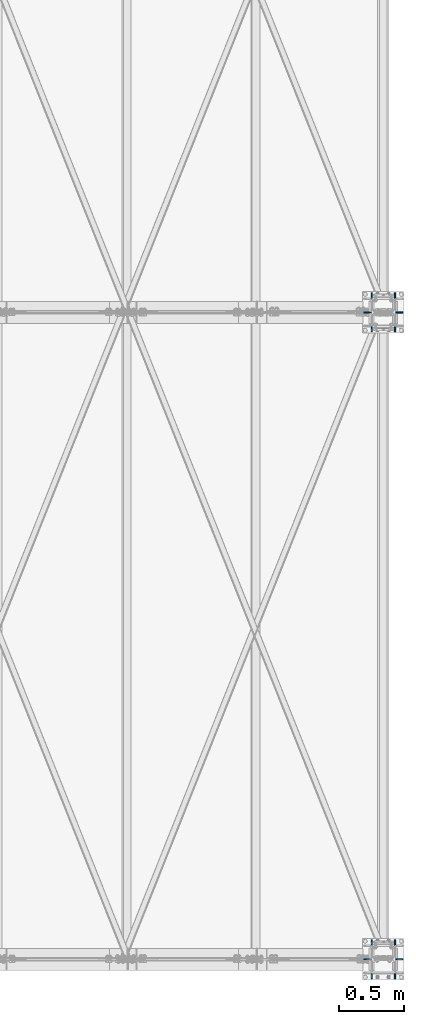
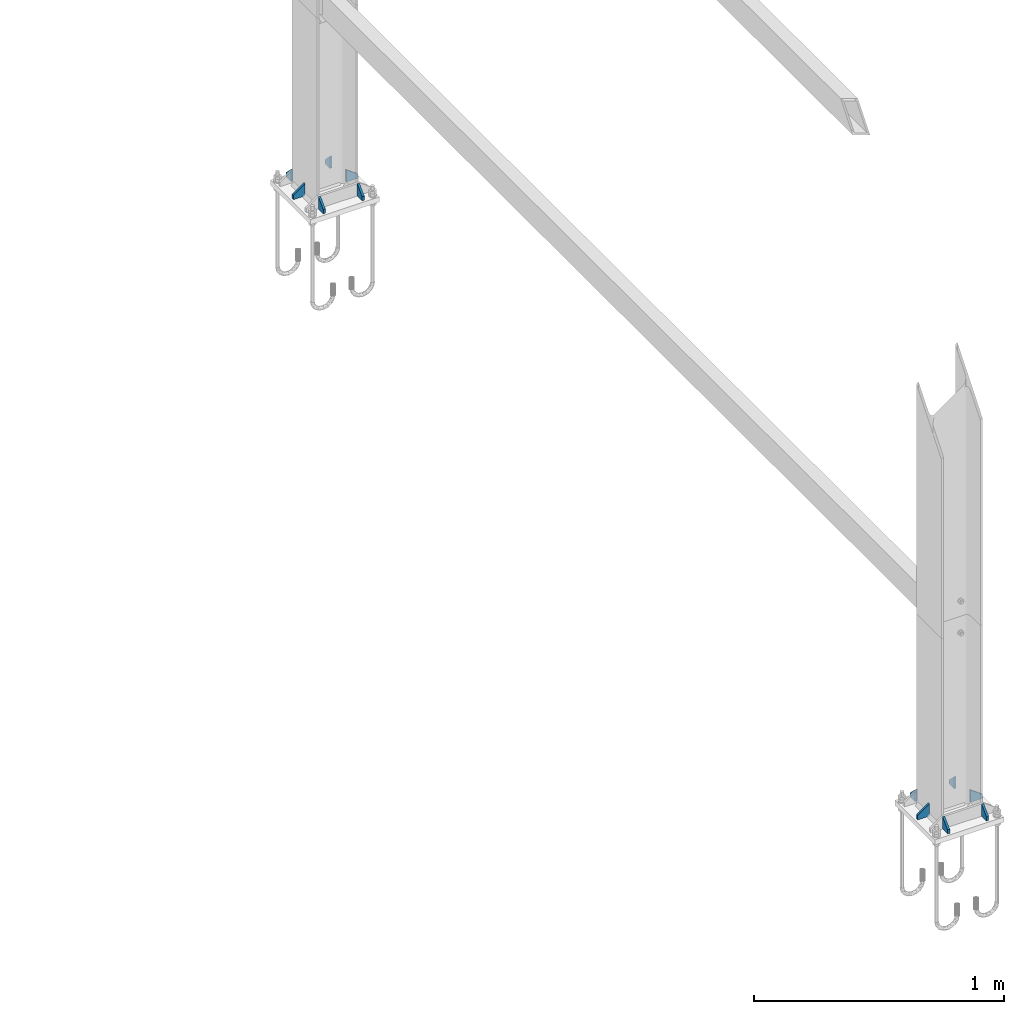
# One storey, part 12 of 251: 12 plates.
"""IFC4 building model written with IfcOpenShell, lengths in metres."""

from ifc_helpers import new_model, si_unit, frame, origin_with_axes, place, context, project, spatial, polyline, outline, extrude, type_object, element, save


model = new_model("IFC4")

# Units and contexts
model_context = context("Model", 3, precision=1e-05, world=origin_with_axes())
ifc_project = project(units=[si_unit("LENGTHUNIT", "METRE"), si_unit("AREAUNIT", "SQUARE_METRE"), si_unit("VOLUMEUNIT", "CUBIC_METRE"), si_unit("MASSUNIT", "GRAM", prefix="KILO"), si_unit("TIMEUNIT", "SECOND"), si_unit("PLANEANGLEUNIT", "RADIAN"), si_unit("SOLIDANGLEUNIT", "STERADIAN"), si_unit("THERMODYNAMICTEMPERATUREUNIT", "DEGREE_CELSIUS")], contexts=[model_context])

# Site, building, storey
placement_1 = place(None, origin_with_axes())
site = spatial("IfcSite", under=ifc_project, at=placement_1, Name="Italia", CompositionType="ELEMENT")
building = spatial("IfcBuilding", under=site, at=placement_1, Name="Deposito", CompositionType="ELEMENT")
storey = spatial("IfcBuildingStorey", under=building, at=placement_1, Name="Storey 0", CompositionType="ELEMENT", Elevation=0.0)

# Plates
plate_type_1 = type_object("IfcPlateType", Name="Collegamenti 0014_-001 0016_-054 0018_-056 0032_-002 0033_-058 0047_-003 0048_-060 0062_-004 0063_-005 0079_-008", PredefinedType="SHEET")
placement_2 = place(placement_1, origin_with_axes())
plate_1_placement = place(placement_2, origin_with_axes())
element("IfcPlate", 1, at=plate_1_placement, inside=storey, type_object=plate_type_1, Name="Collegamenti 0014_-001 0016_-054 0018_-056 0032_-002 0033_-058 0047_-003 0048_-060 0062_-004 0063_-005 0079_-008", context=model_context, shape_type="SweptSolid", body=[
    extrude(outline(polyline([(0.0, 0.0), (0.0, -0.02), (-0.0550003, -0.02), (-0.0550003, 0.04), (0.0, 0.0)])), frame((19.85, -0.005, 0.095), z_axis=(0.0, 1.0, 0.0), x_axis=(-1.0, 0.0, 0.0)), (0.0, 0.0, 1.0), 0.01),
])
plate_type_2 = type_object("IfcPlateType", Name="Collegamenti 0014_-001 0016_-054 0018_-056 0032_-002 0033_-058 0047_-003 0048_-060 0062_-004 0063_-005 0079_-008", PredefinedType="SHEET")
plate_2_placement = place(placement_2, origin_with_axes())
element("IfcPlate", 2, at=plate_2_placement, inside=storey, type_object=plate_type_2, Name="Collegamenti 0014_-001 0016_-054 0018_-056 0032_-002 0033_-058 0047_-003 0048_-060 0062_-004 0063_-005 0079_-008", context=model_context, shape_type="SweptSolid", body=[
    extrude(outline(polyline([(0.0, 0.0), (0.0, 0.02), (0.0550003, 0.06), (0.0550003, 0.0), (0.0, 0.0)])), frame((20.15, -0.005, 0.075), z_axis=(0.0, 1.0, 0.0), x_axis=(-1.0, 0.0, 0.0)), (0.0, 0.0, 1.0), 0.01),
])
plate_type_3 = type_object("IfcPlateType", Name="Collegamenti 0014_-001 0016_-054 0018_-056 0032_-002 0033_-058 0047_-003 0048_-060 0062_-004 0063_-005 0079_-008", PredefinedType="SHEET")
plate_3_placement = place(placement_2, origin_with_axes())
element("IfcPlate", 3, at=plate_3_placement, inside=storey, type_object=plate_type_3, Name="Collegamenti 0014_-001 0016_-054 0018_-056 0032_-002 0033_-058 0047_-003 0048_-060 0062_-004 0063_-005 0079_-008", context=model_context, shape_type="SweptSolid", body=[
    extrude(outline(polyline([(0.0, 0.0), (0.0, -0.02), (-0.04, -0.02), (-0.04, 0.04), (0.0, 0.0)])), frame((19.905, 0.15, 0.095), z_axis=(1.0, 0.0, 0.0), x_axis=(0.0, 1.0, 0.0)), (0.0, 0.0, 1.0), 0.0100002),
])
plate_type_4 = type_object("IfcPlateType", Name="Collegamenti 0014_-001 0016_-054 0018_-056 0032_-002 0033_-058 0047_-003 0048_-060 0062_-004 0063_-005 0079_-008", PredefinedType="SHEET")
plate_4_placement = place(placement_2, origin_with_axes())
element("IfcPlate", 4, at=plate_4_placement, inside=storey, type_object=plate_type_4, Name="Collegamenti 0014_-001 0016_-054 0018_-056 0032_-002 0033_-058 0047_-003 0048_-060 0062_-004 0063_-005 0079_-008", context=model_context, shape_type="SweptSolid", body=[
    extrude(outline(polyline([(0.0, 0.0), (0.0, 0.02), (0.04, 0.06), (0.04, 0.0), (0.0, 0.0)])), frame((19.905, -0.15, 0.075), z_axis=(1.0, 0.0, 0.0), x_axis=(0.0, 1.0, 0.0)), (0.0, 0.0, 1.0), 0.0100002),
])
plate_type_5 = type_object("IfcPlateType", Name="Collegamenti 0014_-001 0016_-054 0018_-056 0032_-002 0033_-058 0047_-003 0048_-060 0062_-004 0063_-005 0079_-008", PredefinedType="SHEET")
plate_5_placement = place(placement_2, origin_with_axes())
element("IfcPlate", 5, at=plate_5_placement, inside=storey, type_object=plate_type_5, Name="Collegamenti 0014_-001 0016_-054 0018_-056 0032_-002 0033_-058 0047_-003 0048_-060 0062_-004 0063_-005 0079_-008", context=model_context, shape_type="SweptSolid", body=[
    extrude(outline(polyline([(0.0, 0.0), (0.0, 0.02), (0.04, 0.06), (0.04, 0.0), (0.0, 0.0)])), frame((20.095, 0.15, 0.075), z_axis=(-1.0, 0.0, 0.0), x_axis=(0.0, -1.0, 0.0)), (0.0, 0.0, 1.0), 0.0100002),
])
plate_type_6 = type_object("IfcPlateType", Name="Collegamenti 0014_-001 0016_-054 0018_-056 0032_-002 0033_-058 0047_-003 0048_-060 0062_-004 0063_-005 0079_-008", PredefinedType="SHEET")
plate_6_placement = place(placement_2, origin_with_axes())
element("IfcPlate", 6, at=plate_6_placement, inside=storey, type_object=plate_type_6, Name="Collegamenti 0014_-001 0016_-054 0018_-056 0032_-002 0033_-058 0047_-003 0048_-060 0062_-004 0063_-005 0079_-008", context=model_context, shape_type="SweptSolid", body=[
    extrude(outline(polyline([(0.0, 0.0), (0.0, -0.02), (-0.04, -0.02), (-0.04, 0.04), (0.0, 0.0)])), frame((20.095, -0.15, 0.095), z_axis=(-1.0, 0.0, 0.0), x_axis=(0.0, -1.0, 0.0)), (0.0, 0.0, 1.0), 0.0100002),
])
plate_type_7 = type_object("IfcPlateType", Name="Collegamenti 0014_-001 0016_-054 0018_-056 0032_-002 0033_-058 0047_-003 0048_-060 0062_-004 0063_-005 0079_-008", PredefinedType="SHEET")
plate_7_placement = place(placement_2, origin_with_axes())
element("IfcPlate", 7, at=plate_7_placement, inside=storey, type_object=plate_type_7, Name="Collegamenti 0014_-001 0016_-054 0018_-056 0032_-002 0033_-058 0047_-003 0048_-060 0062_-004 0063_-005 0079_-008", context=model_context, shape_type="SweptSolid", body=[
    extrude(outline(polyline([(0.0, 0.0), (0.0, -0.02), (-0.0550003, -0.02), (-0.0550003, 0.04), (0.0, 0.0)])), frame((19.85, 4.995, 0.095), z_axis=(0.0, 1.0, 0.0), x_axis=(-1.0, 0.0, 0.0)), (0.0, 0.0, 1.0), 0.0100002),
])
plate_type_8 = type_object("IfcPlateType", Name="Collegamenti 0014_-001 0016_-054 0018_-056 0032_-002 0033_-058 0047_-003 0048_-060 0062_-004 0063_-005 0079_-008", PredefinedType="SHEET")
plate_8_placement = place(placement_2, origin_with_axes())
element("IfcPlate", 8, at=plate_8_placement, inside=storey, type_object=plate_type_8, Name="Collegamenti 0014_-001 0016_-054 0018_-056 0032_-002 0033_-058 0047_-003 0048_-060 0062_-004 0063_-005 0079_-008", context=model_context, shape_type="SweptSolid", body=[
    extrude(outline(polyline([(0.0, 0.0), (0.0, 0.02), (0.0550003, 0.06), (0.0550003, 0.0), (0.0, 0.0)])), frame((20.15, 4.995, 0.075), z_axis=(0.0, 1.0, 0.0), x_axis=(-1.0, 0.0, 0.0)), (0.0, 0.0, 1.0), 0.0100002),
])
plate_type_9 = type_object("IfcPlateType", Name="Collegamenti 0014_-001 0016_-054 0018_-056 0032_-002 0033_-058 0047_-003 0048_-060 0062_-004 0063_-005 0079_-008", PredefinedType="SHEET")
plate_9_placement = place(placement_2, origin_with_axes())
element("IfcPlate", 9, at=plate_9_placement, inside=storey, type_object=plate_type_9, Name="Collegamenti 0014_-001 0016_-054 0018_-056 0032_-002 0033_-058 0047_-003 0048_-060 0062_-004 0063_-005 0079_-008", context=model_context, shape_type="SweptSolid", body=[
    extrude(outline(polyline([(0.0, 0.0), (0.0, -0.02), (-0.04, -0.02), (-0.04, 0.04), (0.0, 0.0)])), frame((19.905, 5.15, 0.095), z_axis=(1.0, 0.0, 0.0), x_axis=(0.0, 1.0, 0.0)), (0.0, 0.0, 1.0), 0.0100002),
])
plate_type_10 = type_object("IfcPlateType", Name="Collegamenti 0014_-001 0016_-054 0018_-056 0032_-002 0033_-058 0047_-003 0048_-060 0062_-004 0063_-005 0079_-008", PredefinedType="SHEET")
plate_10_placement = place(placement_2, origin_with_axes())
element("IfcPlate", 10, at=plate_10_placement, inside=storey, type_object=plate_type_10, Name="Collegamenti 0014_-001 0016_-054 0018_-056 0032_-002 0033_-058 0047_-003 0048_-060 0062_-004 0063_-005 0079_-008", context=model_context, shape_type="SweptSolid", body=[
    extrude(outline(polyline([(0.0, 0.0), (0.0, 0.02), (0.04, 0.06), (0.04, 0.0), (0.0, 0.0)])), frame((19.905, 4.85, 0.075), z_axis=(1.0, 0.0, 0.0), x_axis=(0.0, 1.0, 0.0)), (0.0, 0.0, 1.0), 0.0100002),
])
plate_type_11 = type_object("IfcPlateType", Name="Collegamenti 0014_-001 0016_-054 0018_-056 0032_-002 0033_-058 0047_-003 0048_-060 0062_-004 0063_-005 0079_-008", PredefinedType="SHEET")
plate_11_placement = place(placement_2, origin_with_axes())
element("IfcPlate", 11, at=plate_11_placement, inside=storey, type_object=plate_type_11, Name="Collegamenti 0014_-001 0016_-054 0018_-056 0032_-002 0033_-058 0047_-003 0048_-060 0062_-004 0063_-005 0079_-008", context=model_context, shape_type="SweptSolid", body=[
    extrude(outline(polyline([(0.0, 0.0), (0.0, 0.02), (0.04, 0.06), (0.04, 0.0), (0.0, 0.0)])), frame((20.095, 5.15, 0.075), z_axis=(-1.0, 0.0, 0.0), x_axis=(0.0, -1.0, 0.0)), (0.0, 0.0, 1.0), 0.0100002),
])
plate_type_12 = type_object("IfcPlateType", Name="Collegamenti 0014_-001 0016_-054 0018_-056 0032_-002 0033_-058 0047_-003 0048_-060 0062_-004 0063_-005 0079_-008", PredefinedType="SHEET")
plate_12_placement = place(placement_2, origin_with_axes())
element("IfcPlate", 12, at=plate_12_placement, inside=storey, type_object=plate_type_12, Name="Collegamenti 0014_-001 0016_-054 0018_-056 0032_-002 0033_-058 0047_-003 0048_-060 0062_-004 0063_-005 0079_-008", context=model_context, shape_type="SweptSolid", body=[
    extrude(outline(polyline([(0.0, 0.0), (0.0, -0.02), (-0.04, -0.02), (-0.04, 0.04), (0.0, 0.0)])), frame((20.095, 4.85, 0.095), z_axis=(-1.0, 0.0, 0.0), x_axis=(0.0, -1.0, 0.0)), (0.0, 0.0, 1.0), 0.0100002),
])

save(model, "model.ifc")
